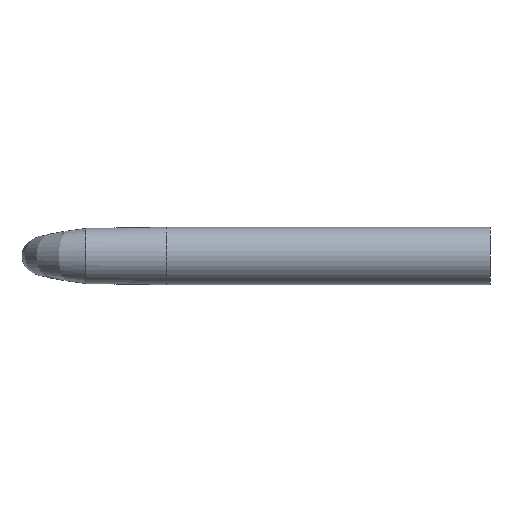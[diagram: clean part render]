
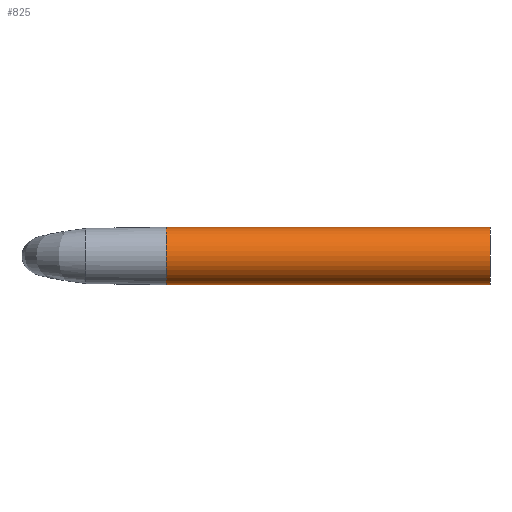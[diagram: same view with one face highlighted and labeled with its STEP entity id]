
A CAD part, front view. The second image highlights one B-rep face of the part: STEP entity #825.
In plain terms, the highlighted cylindrical face has radius 16 mm (diameter 32 mm), a partial arc.
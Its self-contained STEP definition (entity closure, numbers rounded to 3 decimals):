
#825=ADVANCED_FACE('',(#1117),#1116,.T.);
#1116=CYLINDRICAL_SURFACE('',#2418,16.);
#1117=FACE_OUTER_BOUND('',#2419,.T.);
#2415=CARTESIAN_POINT('',(312.695,182.717,0.));
#2416=DIRECTION('',(-1.,0.,0.));
#2417=DIRECTION('',(0.,0.,1.));
#2418=AXIS2_PLACEMENT_3D('',#2415,#2416,#2417);
#2419=EDGE_LOOP('',(#2628,#2629,#2630,#2631));
#2628=ORIENTED_EDGE('',*,*,#2699,.T.);
#2629=ORIENTED_EDGE('',*,*,#2742,.T.);
#2630=ORIENTED_EDGE('',*,*,#2738,.T.);
#2631=ORIENTED_EDGE('',*,*,#2743,.F.);
#2699=EDGE_CURVE('',#2895,#2896,#2897,.T.);
#2738=EDGE_CURVE('',#3152,#3153,#3154,.T.);
#2742=EDGE_CURVE('',#2896,#3152,#3178,.T.);
#2743=EDGE_CURVE('',#2895,#3153,#3184,.T.);
#2895=VERTEX_POINT('',#3398);
#2896=VERTEX_POINT('',#3399);
#2897=CIRCLE('',#3403,16.);
#3152=VERTEX_POINT('',#3599);
#3153=VERTEX_POINT('',#3600);
#3154=CIRCLE('',#3604,16.);
#3178=(BOUNDED_CURVE() B_SPLINE_CURVE(1,(#3613,#3614),.UNSPECIFIED.,.F.,.F.) B_SPLINE_CURVE_WITH_KNOTS((2,2),(0.05,0.95),.UNSPECIFIED.) CURVE() GEOMETRIC_REPRESENTATION_ITEM() RATIONAL_B_SPLINE_CURVE((1.,1.)) REPRESENTATION_ITEM('') );
#3184=(BOUNDED_CURVE() B_SPLINE_CURVE(1,(#3615,#3616),.UNSPECIFIED.,.F.,.F.) B_SPLINE_CURVE_WITH_KNOTS((2,2),(0.05,0.95),.UNSPECIFIED.) CURVE() GEOMETRIC_REPRESENTATION_ITEM() RATIONAL_B_SPLINE_CURVE((0.75,0.75)) REPRESENTATION_ITEM('') );
#3398=CARTESIAN_POINT('',(492.695,182.717,-16.));
#3399=CARTESIAN_POINT('',(492.695,182.717,16.));
#3400=CARTESIAN_POINT('',(492.695,182.717,0.));
#3401=DIRECTION('',(-1.,0.,0.));
#3402=DIRECTION('',(0.,0.,1.));
#3403=AXIS2_PLACEMENT_3D('',#3400,#3401,#3402);
#3599=CARTESIAN_POINT('',(312.695,182.717,16.));
#3600=CARTESIAN_POINT('',(312.695,182.717,-16.));
#3601=CARTESIAN_POINT('',(312.695,182.717,0.));
#3602=DIRECTION('',(1.,0.,0.));
#3603=DIRECTION('',(0.,0.,-1.));
#3604=AXIS2_PLACEMENT_3D('',#3601,#3602,#3603);
#3613=CARTESIAN_POINT('',(492.695,182.717,16.));
#3614=CARTESIAN_POINT('',(312.695,182.717,16.));
#3615=CARTESIAN_POINT('',(492.695,182.717,-16.));
#3616=CARTESIAN_POINT('',(312.695,182.717,-16.));
